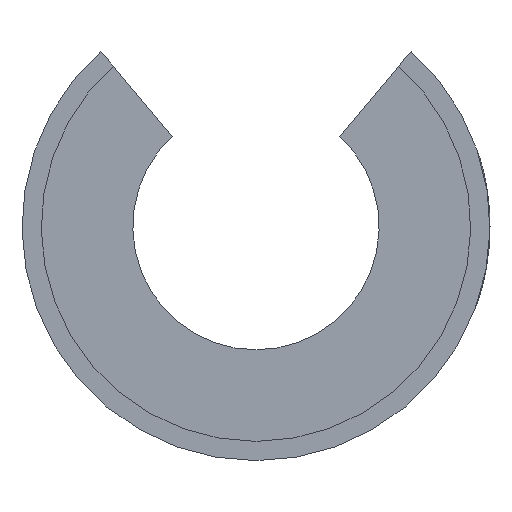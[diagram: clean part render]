
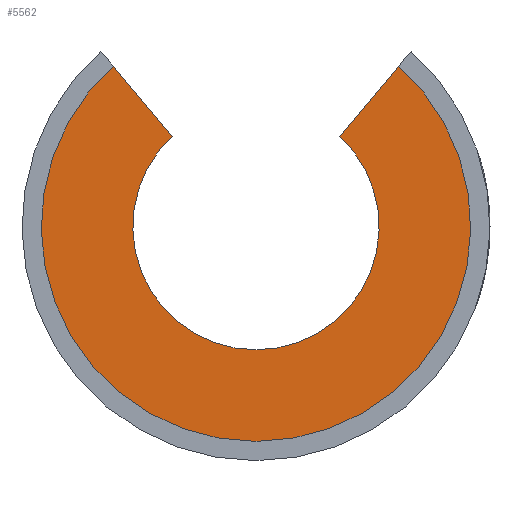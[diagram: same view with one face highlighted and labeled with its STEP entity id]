
A CAD part, left-side view. The second image highlights one B-rep face of the part: STEP entity #5562.
In plain terms, the highlighted planar face has unit normal (-1, 0, 0).
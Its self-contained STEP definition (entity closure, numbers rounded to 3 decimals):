
#121=PLANE('',#6000);
#415=LINE('',#8723,#893);
#416=LINE('',#8725,#894);
#893=VECTOR('',#6641,1000.);
#894=VECTOR('',#6642,1000.);
#1329=CIRCLE('',#5975,5.);
#1342=CIRCLE('',#6001,8.717);
#1728=ORIENTED_EDGE('',*,*,#3399,.T.);
#1729=ORIENTED_EDGE('',*,*,#3360,.T.);
#1730=ORIENTED_EDGE('',*,*,#3400,.T.);
#1731=ORIENTED_EDGE('',*,*,#3401,.F.);
#3360=EDGE_CURVE('',#4202,#4203,#1329,.F.);
#3399=EDGE_CURVE('',#4228,#4202,#415,.T.);
#3400=EDGE_CURVE('',#4203,#4229,#416,.T.);
#3401=EDGE_CURVE('',#4228,#4229,#1342,.T.);
#4202=VERTEX_POINT('',#8646);
#4203=VERTEX_POINT('',#8647);
#4228=VERTEX_POINT('',#8724);
#4229=VERTEX_POINT('',#8726);
#4761=EDGE_LOOP('',(#1728,#1729,#1730,#1731));
#5152=FACE_BOUND('',#4761,.T.);
#5562=ADVANCED_FACE('',(#5152),#121,.T.);
#5975=AXIS2_PLACEMENT_3D('',#8645,#6563,#6564);
#6000=AXIS2_PLACEMENT_3D('',#8722,#6639,#6640);
#6001=AXIS2_PLACEMENT_3D('',#8727,#6643,#6644);
#6563=DIRECTION('',(-1.,0.,0.));
#6564=DIRECTION('',(0.,0.,1.));
#6639=DIRECTION('',(-1.,0.,0.));
#6640=DIRECTION('',(0.,0.,-1.));
#6641=DIRECTION('',(0.,0.643,-0.766));
#6642=DIRECTION('',(0.,0.643,0.766));
#6643=DIRECTION('',(1.,0.,0.));
#6644=DIRECTION('',(0.,0.,-1.));
#8645=CARTESIAN_POINT('',(-13.5,0.,0.));
#8646=CARTESIAN_POINT('',(-13.5,-3.4,3.666));
#8647=CARTESIAN_POINT('',(-13.5,3.4,3.666));
#8722=CARTESIAN_POINT('',(-13.5,0.,0.));
#8723=CARTESIAN_POINT('',(-13.5,-3.4,3.666));
#8724=CARTESIAN_POINT('',(-13.5,-5.791,6.516));
#8725=CARTESIAN_POINT('',(-13.5,3.4,3.666));
#8726=CARTESIAN_POINT('',(-13.5,5.791,6.516));
#8727=CARTESIAN_POINT('',(-13.5,0.,0.));
